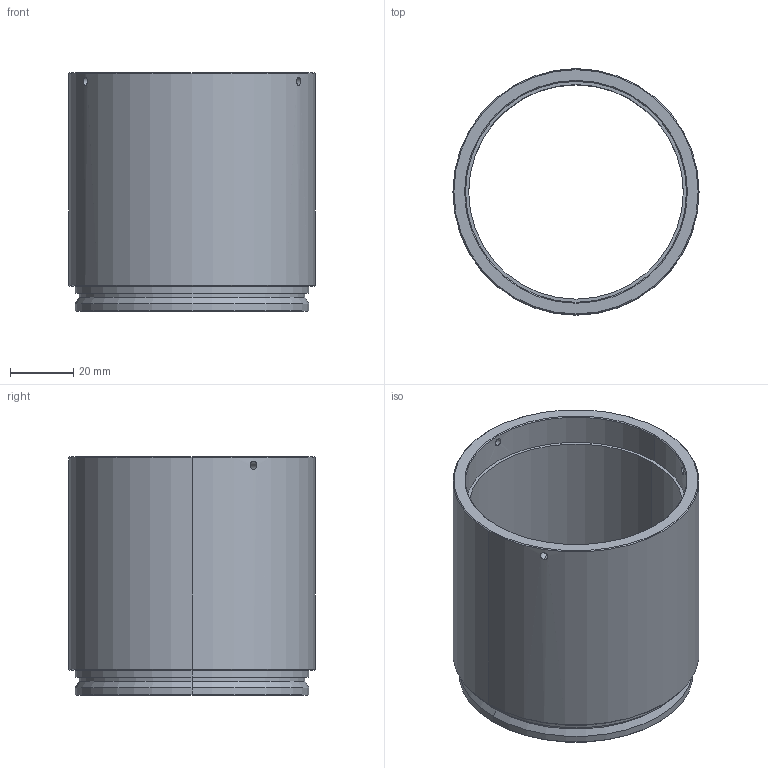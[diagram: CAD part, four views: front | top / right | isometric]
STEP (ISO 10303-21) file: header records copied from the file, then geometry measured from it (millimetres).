
FILE_DESCRIPTION (( 'STEP AP214' ), '1' );
FILE_NAME ('ML-13538-033-EXR-V70V74F.STEP', '2026-03-02T01:48:38', ( '' ), ( '' ), 'SwSTEP 2.0', 'SolidWorks 2025', '' );
FILE_SCHEMA (( 'AUTOMOTIVE_DESIGN' ));
Length unit declared in the file: millimetre
Products named in the file (1): ML-13538-033-EXR-V70V74F
Bounding box: 78 x 78 x 75.73 mm (x, y, z)
Volume: 80087.1 mm3; surface area: 37159.9 mm2
Topology: 1 solids, 1 shells, 35 faces, 76 edges, 46 vertices
Faces by surface type: cylinder 18, cone 12, plane 5
Entity records: 1195 total; most frequent: CARTESIAN_POINT 386, DIRECTION 170, ORIENTED_EDGE 152, EDGE_CURVE 76, AXIS2_PLACEMENT_3D 70, VERTEX_POINT 46, EDGE_LOOP 46, ADVANCED_FACE 35
